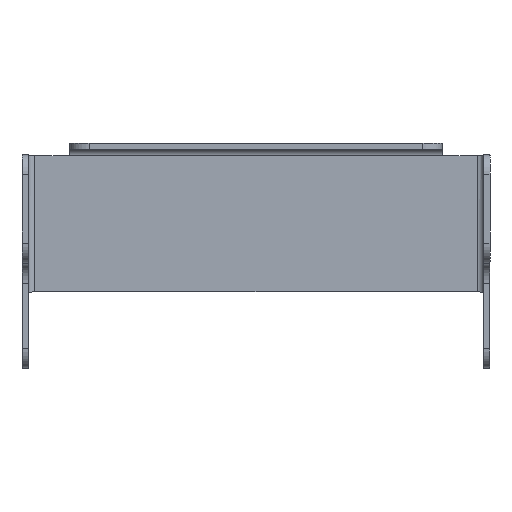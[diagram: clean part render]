
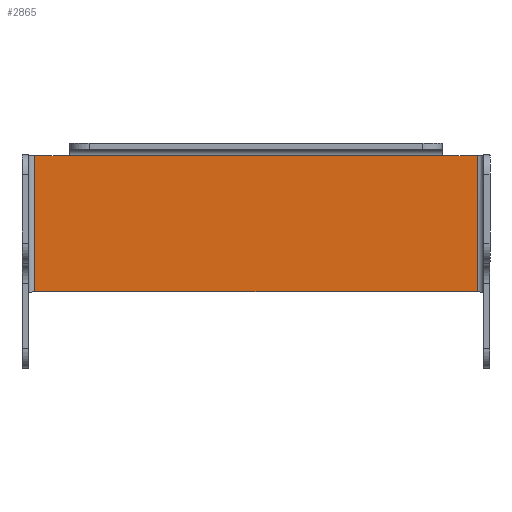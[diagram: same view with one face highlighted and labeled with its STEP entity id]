
A CAD part, top view. The second image highlights one B-rep face of the part: STEP entity #2865.
In plain terms, the highlighted planar face has unit normal (0, 0, 1).
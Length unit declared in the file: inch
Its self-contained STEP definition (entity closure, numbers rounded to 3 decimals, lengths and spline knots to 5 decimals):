
#12 = EDGE_LOOP ( 'NONE', ( #1336, #83, #663, #387, #371, #980 ) ) ;
#83 = ORIENTED_EDGE ( 'NONE', *, *, #1233, .F. ) ;
#116 = VECTOR ( 'NONE', #2063, 39.37008 ) ;
#154 = DIRECTION ( 'NONE',  ( 0., -1., 0. ) ) ;
#191 = VERTEX_POINT ( 'NONE', #2181 ) ;
#236 = EDGE_CURVE ( 'NONE', #191, #1018, #1428, .T. ) ;
#298 = VERTEX_POINT ( 'NONE', #2828 ) ;
#301 = LINE ( 'NONE', #304, #2115 ) ;
#304 = CARTESIAN_POINT ( 'NONE',  ( 1.7325, 0.8125, 0. ) ) ;
#322 = DIRECTION ( 'NONE',  ( -1., 0., 0. ) ) ;
#324 = LINE ( 'NONE', #1504, #432 ) ;
#343 = LINE ( 'NONE', #1781, #2157 ) ;
#371 = ORIENTED_EDGE ( 'NONE', *, *, #2515, .T. ) ;
#374 = CARTESIAN_POINT ( 'NONE',  ( -1.6845, 0.8125, 0. ) ) ;
#387 = ORIENTED_EDGE ( 'NONE', *, *, #576, .F. ) ;
#432 = VECTOR ( 'NONE', #2440, 39.37008 ) ;
#530 = CARTESIAN_POINT ( 'NONE',  ( 0., -0.22248, 0. ) ) ;
#576 = EDGE_CURVE ( 'NONE', #298, #2568, #2386, .T. ) ;
#622 = EDGE_CURVE ( 'NONE', #1335, #2568, #301, .T. ) ;
#637 = DIRECTION ( 'NONE',  ( 0., 0., 1. ) ) ;
#663 = ORIENTED_EDGE ( 'NONE', *, *, #622, .T. ) ;
#733 = FACE_OUTER_BOUND ( 'NONE', #12, .T. ) ;
#740 = CARTESIAN_POINT ( 'NONE',  ( 1.7325, 0.8125, 0. ) ) ;
#895 = CARTESIAN_POINT ( 'NONE',  ( 0., 0., 0. ) ) ;
#976 = VERTEX_POINT ( 'NONE', #374 ) ;
#980 = ORIENTED_EDGE ( 'NONE', *, *, #2699, .F. ) ;
#986 = CARTESIAN_POINT ( 'NONE',  ( -1.6845, -0.22248, 0. ) ) ;
#1018 = VERTEX_POINT ( 'NONE', #986 ) ;
#1117 = PLANE ( 'NONE',  #1873 ) ;
#1119 = CARTESIAN_POINT ( 'NONE',  ( -1.42, 0.8125, 0. ) ) ;
#1210 = DIRECTION ( 'NONE',  ( -1., 0., 0. ) ) ;
#1212 = VECTOR ( 'NONE', #2349, 39.37008 ) ;
#1233 = EDGE_CURVE ( 'NONE', #1335, #191, #343, .T. ) ;
#1335 = VERTEX_POINT ( 'NONE', #1769 ) ;
#1336 = ORIENTED_EDGE ( 'NONE', *, *, #236, .F. ) ;
#1428 = LINE ( 'NONE', #530, #2004 ) ;
#1504 = CARTESIAN_POINT ( 'NONE',  ( -1.6845, -0.8125, 0. ) ) ;
#1769 = CARTESIAN_POINT ( 'NONE',  ( 1.6845, 0.8125, 0. ) ) ;
#1781 = CARTESIAN_POINT ( 'NONE',  ( 1.6845, 0.8125, 0. ) ) ;
#1873 = AXIS2_PLACEMENT_3D ( 'NONE', #895, #637, #1993 ) ;
#1993 = DIRECTION ( 'NONE',  ( 1., 0., 0. ) ) ;
#2004 = VECTOR ( 'NONE', #322, 39.37008 ) ;
#2063 = DIRECTION ( 'NONE',  ( 1., 0., 0. ) ) ;
#2106 = CARTESIAN_POINT ( 'NONE',  ( 1.42, 0.8125, 0. ) ) ;
#2115 = VECTOR ( 'NONE', #1210, 39.37008 ) ;
#2157 = VECTOR ( 'NONE', #154, 39.37008 ) ;
#2175 = LINE ( 'NONE', #740, #1212 ) ;
#2181 = CARTESIAN_POINT ( 'NONE',  ( 1.6845, -0.22248, 0. ) ) ;
#2349 = DIRECTION ( 'NONE',  ( -1., 0., 0. ) ) ;
#2386 = LINE ( 'NONE', #1119, #116 ) ;
#2440 = DIRECTION ( 'NONE',  ( 0., 1., 0. ) ) ;
#2515 = EDGE_CURVE ( 'NONE', #298, #976, #2175, .T. ) ;
#2568 = VERTEX_POINT ( 'NONE', #2106 ) ;
#2699 = EDGE_CURVE ( 'NONE', #1018, #976, #324, .T. ) ;
#2828 = CARTESIAN_POINT ( 'NONE',  ( -1.42, 0.8125, 0. ) ) ;
#2865 = ADVANCED_FACE ( 'NONE', ( #733 ), #1117, .T. ) ;
